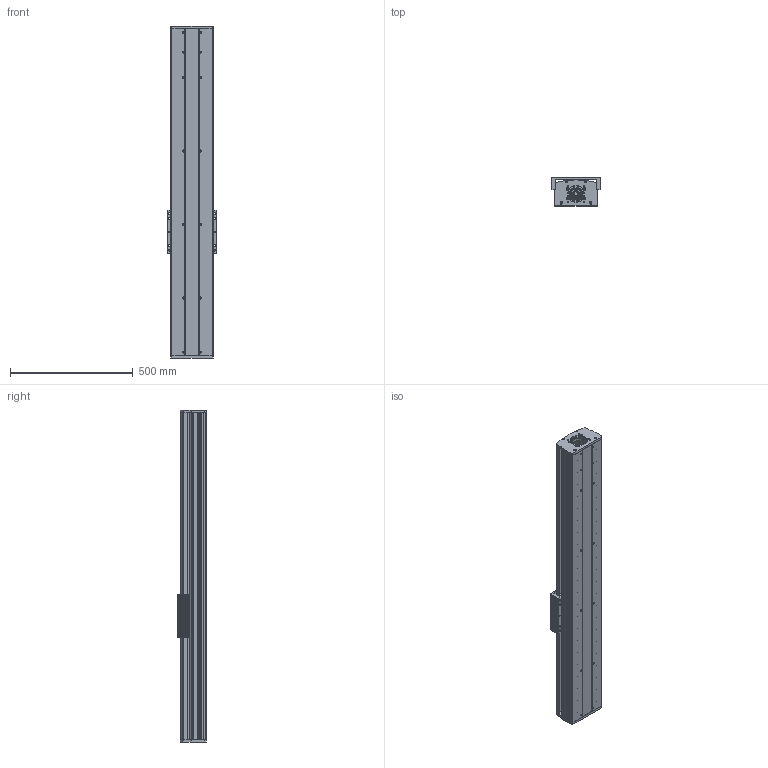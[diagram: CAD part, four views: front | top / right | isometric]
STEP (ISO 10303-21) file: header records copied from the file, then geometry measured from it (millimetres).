
FILE_DESCRIPTION (( 'STEP AP203' ), '1' );
FILE_NAME ('CF175-2-P1000.STEP', '2016-02-23T08:05:02', ( 'Sky123.Org' ), ( 'Sky123.Org' ), 'SwSTEP 2.0', 'SolidWorks 2015', '' );
FILE_SCHEMA (( 'CONFIG_CONTROL_DESIGN' ));
Length unit declared in the file: millimetre
Products named in the file (13): Y1-HGR20-1500絳寢; CF-HGH20CA賑輸; CF175-2賑雄啣; SFU2505-4; 175-2梓袧嘐隅釱; X1-SFS2525-1185; 175-2侜督80萇儂釱; 175-2耜啣; CF175-2-P1000; 175-2盓傅釱; CF175-2蹟譫釱; Y1-CF175-2-P1200-1547裔啣; Y1-CF175-2-P1200-1547臏倰第
Assembly tree (16 placements, depth 2):
  CF175-2-P1000
    CF-HGH20CA賑輸  x4
    SFU2505-4
    X1-SFS2525-1185
    175-2耜啣
    175-2盓傅釱
    CF175-2蹟譫釱
    Y1-CF175-2-P1200-1547裔啣
    Y1-CF175-2-P1200-1547臏倰第
    Y1-HGR20-1500絳寢  x2
    CF175-2賑雄啣
    175-2梓袧嘐隅釱
    175-2侜督80萇儂釱
Bounding box: 200 x 116.8 x 1355 mm (x, y, z)
Volume: 10331237.1 mm3; surface area: 2790387.8 mm2
Topology: 20 solids, 20 shells, 1504 faces, 3966 edges, 2628 vertices
Faces by surface type: cylinder 815, plane 665, cone 20, bspline 4
Entity records: 44308 total; most frequent: CARTESIAN_POINT 11570, DIRECTION 6822, ORIENTED_EDGE 6306, EDGE_CURVE 3153, AXIS2_PLACEMENT_3D 2581, VERTEX_POINT 2088, VECTOR 1660, LINE 1660
